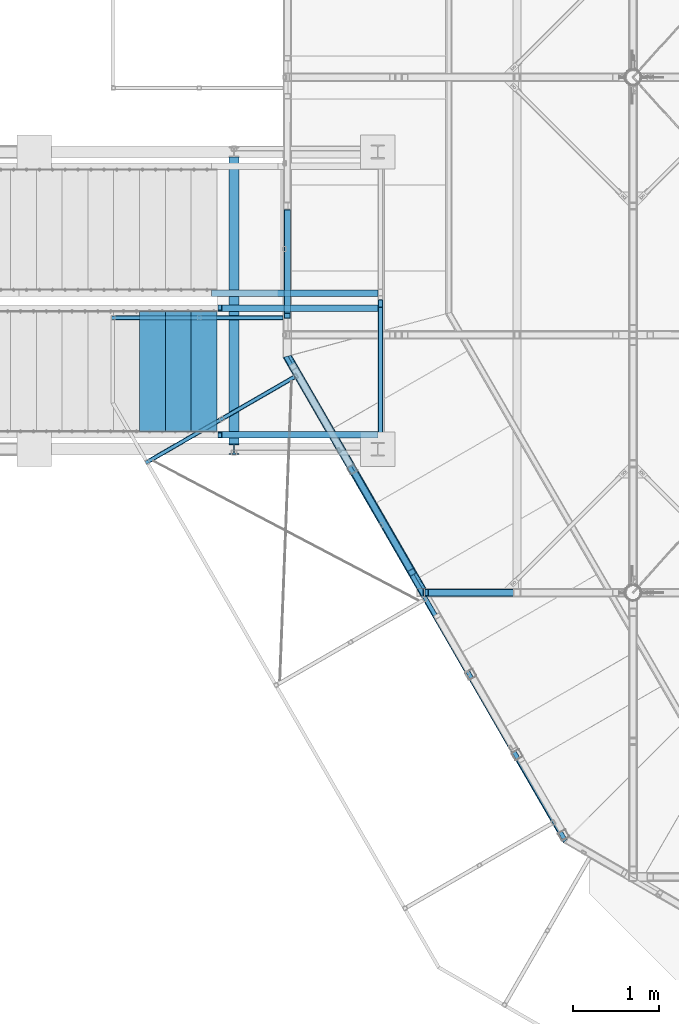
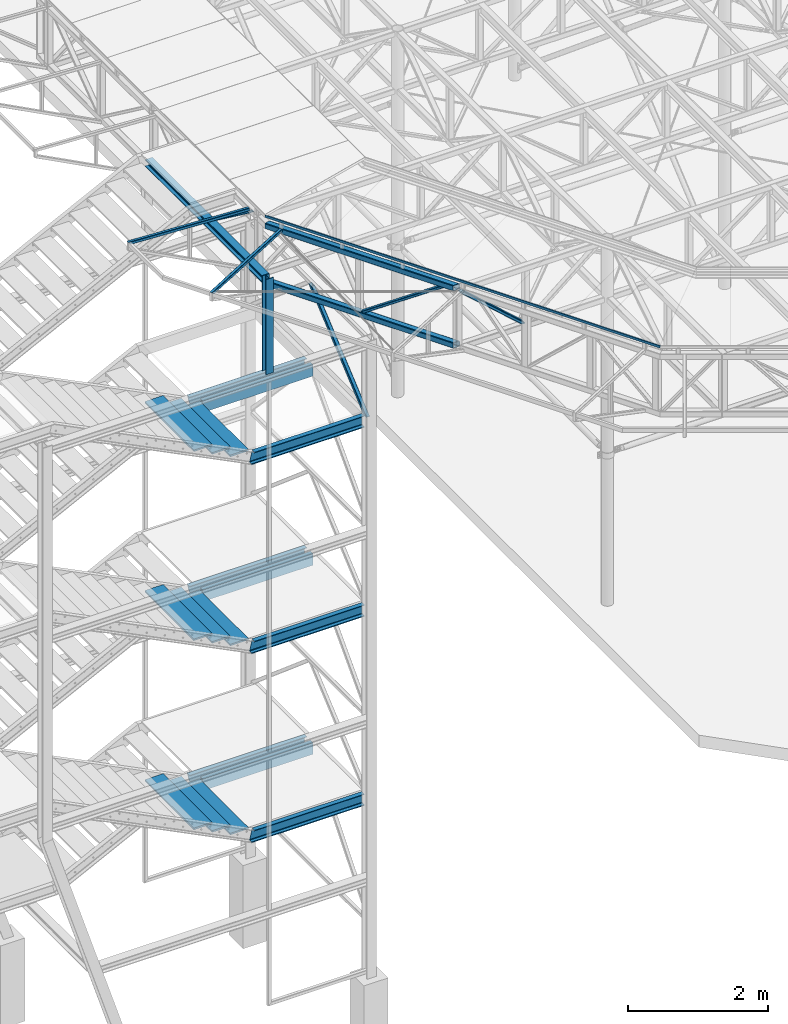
# One storey, part 38 of 132: 29 discrete accessories, 26 elements without a shape of their own.
"""IFC2X3 building model written with IfcOpenShell, lengths in millimetres."""

from ifc_helpers import new_model, si_unit, frame, origin_with_axes, origin_2d_with_axis, place, context, subcontext, project, spatial, polyline, rounded_rectangle, hollow_rectangle, i_section, l_section, u_section, outline, extrude, boolean, clip, halfspace, material, type_object, element, aggregate, save


model = new_model("IFC2X3")

# Units and contexts
model_context = context("Model", 3, precision=1e-05, world=origin_with_axes())
body_context = subcontext(model_context, "Body", "Model", "MODEL_VIEW")
ifc_project = project(units=[si_unit("LENGTHUNIT", "METRE", prefix="MILLI"), si_unit("AREAUNIT", "SQUARE_METRE"), si_unit("VOLUMEUNIT", "CUBIC_METRE"), si_unit("MASSUNIT", "GRAM", prefix="KILO"), si_unit("TIMEUNIT", "SECOND"), si_unit("PLANEANGLEUNIT", "RADIAN"), si_unit("SOLIDANGLEUNIT", "STERADIAN"), si_unit("THERMODYNAMICTEMPERATUREUNIT", "DEGREE_CELSIUS"), si_unit("LUMINOUSINTENSITYUNIT", "LUMEN")], contexts=[model_context])

# Site, building, storey
site_placement = place(None, origin_with_axes())
site = spatial("IfcSite", under=ifc_project, at=site_placement, Name="Budowa", CompositionType="ELEMENT")
building_placement = place(site_placement, origin_with_axes())
building = spatial("IfcBuilding", under=site, at=building_placement, Name="Undefined", CompositionType="ELEMENT")
storey_placement = place(building_placement, origin_with_axes())
storey = spatial("IfcBuildingStorey", under=building, at=storey_placement, Name="Undefined", CompositionType="ELEMENT", Elevation=0.0)

# Assembly, discrete accessories
assembly_1_placement = place(storey_placement, origin_with_axes())
assembly_1 = element("IfcElementAssembly", 1, at=assembly_1_placement, inside=storey, Name="Steel Assembly", AssemblyPlace="NOTDEFINED", PredefinedType="RIGID_FRAME")
ifc_material_1 = material(Name="STEEL/S235")
discrete_accessory_type_1 = type_object("IfcDiscreteAccessoryType", Name="BEAM")
discrete_accessory_1_placement = place(assembly_1_placement, frame((-620.000000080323, 7670.00000004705, 13740.0), z_axis=(0.0, 0.0, 1.0), x_axis=(0.0, 1.0, 0.0)))
discrete_accessory_1 = element("IfcDiscreteAccessory", 2, at=discrete_accessory_1_placement, type_object=discrete_accessory_type_1, material=ifc_material_1, Name="BEAM", ObjectType="HEB120", context=body_context, shape_type="Clipping", body=[
    clip(clip(extrude(i_section(OverallWidth=120.0, OverallDepth=120.0, WebThickness=6.5, FlangeThickness=11.0, FilletRadius=12.0, at=origin_2d_with_axis()), frame((3400.0, 0.0, 0.0), z_axis=(-1.0, 0.0, 0.0), x_axis=(0.0, -1.0, 0.0)), (0.0, 0.0, 1.0), 3340.0), halfspace(frame((3400.0, 0.0, 1000.0), z_axis=(-1.0, 0.0, 0.0), x_axis=(0.0, -1.0, 0.0)), True)), halfspace(frame((59.9999999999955, 0.0, 1000.0), z_axis=(1.0, 0.0, 0.0), x_axis=(0.0, 1.0, 0.0)), True)),
])
discrete_accessory_2_placement = place(assembly_1_placement, frame((-620.00000008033, 7670.00000004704, 12140.0), z_axis=(0.0, 0.0, 1.0), x_axis=(0.0, -1.0, 0.0)))
discrete_accessory_2 = element("IfcDiscreteAccessory", 3, at=discrete_accessory_2_placement, type_object=discrete_accessory_type_1, material=ifc_material_1, Name="BEAM", ObjectType="HEB120", context=body_context, shape_type="SweptSolid", body=[
    extrude(i_section(OverallWidth=120.0, OverallDepth=120.0, WebThickness=6.5, FlangeThickness=11.0, FilletRadius=12.0, at=origin_2d_with_axis()), frame((0.0, 0.0, 1660.0), z_axis=(0.0, 0.0, -1.0), x_axis=(0.0, 1.0, 0.0)), (0.0, 0.0, 1.0), 1660.0),
])
aggregate(assembly_1, [discrete_accessory_1, discrete_accessory_2])

# Assembly, discrete accessory
assembly_2_placement = place(storey_placement, origin_with_axes())
assembly_2 = element("IfcElementAssembly", 4, at=assembly_2_placement, inside=storey, Name="Steel Assembly", AssemblyPlace="NOTDEFINED", PredefinedType="RIGID_FRAME")
discrete_accessory_3_placement = place(assembly_2_placement, frame((-24.0681077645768, 8752.71791567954, 14004.0), z_axis=(0.86602354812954, 0.500003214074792, 0.0), x_axis=(0.500003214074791, -0.866023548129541, 0.0)))
discrete_accessory_3 = element("IfcDiscreteAccessory", 5, at=discrete_accessory_3_placement, type_object=discrete_accessory_type_1, material=ifc_material_1, Name="BEAM", ObjectType="L60*40*6", context=body_context, shape_type="Clipping", body=[
    clip(clip(extrude(l_section(Depth=60.0, Width=40.0, Thickness=6.0, FilletRadius=6.0, EdgeRadius=3.0, at=origin_2d_with_axis()), frame((6569.05914433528, -1.81898940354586e-12, 0.0), z_axis=(-1.0, 0.0, 0.0), x_axis=(0.0, -1.0, 0.0)), (0.0, 0.0, 1.0), 6613.4), halfspace(frame((6524.61678802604, -1.81898940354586e-12, -30.000000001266), z_axis=(0.965921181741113, 0.0, 0.2588363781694), x_axis=(0.0, -1.0, 0.0)), False)), halfspace(frame((16.1753331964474, -1.81898940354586e-12, 30.0000000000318), z_axis=(-0.965921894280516, 0.0, 0.258833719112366), x_axis=(0.0, -1.0, 0.0)), False)),
])
aggregate(assembly_2, [discrete_accessory_3])

assembly_3_placement = place(storey_placement, origin_with_axes())
assembly_3 = element("IfcElementAssembly", 6, at=assembly_3_placement, inside=storey, Name="Steel Assembly", AssemblyPlace="NOTDEFINED", PredefinedType="RIGID_FRAME")
discrete_accessory_4_placement = place(assembly_3_placement, frame((-51.148440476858, 9200.00000004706, 13855.0311915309), z_axis=(0.0, 1.0, 0.0), x_axis=(-0.998752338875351, 0.0, 0.0499376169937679)))
discrete_accessory_4 = element("IfcDiscreteAccessory", 7, at=discrete_accessory_4_placement, type_object=discrete_accessory_type_1, material=ifc_material_1, Name="BEAM", ObjectType="SHS50*4", context=body_context, shape_type="Clipping", body=[
    clip(clip(extrude(hollow_rectangle(XDim=50.0, YDim=50.0, WallThickness=4.0, InnerFilletRadius=4.0, OuterFilletRadius=8.0, at=origin_2d_with_axis()), frame((2004.12425861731, -3.63797880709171e-12, 0.0), z_axis=(-1.0, 0.0, 0.0), x_axis=(0.0, -1.0, 0.0)), (0.0, 0.0, 1.0), 2033.18), halfspace(frame((2002.59894631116, 25.0000000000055, -2.91038304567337e-11), z_axis=(-0.689225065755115, 0.724547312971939, 0.0), x_axis=(0.0, 0.0, 1.0)), True)), halfspace(frame((-1.21290213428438e-08, 25.0000000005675, 73.1665326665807), z_axis=(-0.998752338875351, 0.0499376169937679, 0.0), x_axis=(-0.0499376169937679, -0.998752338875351, 0.0)), False)),
])
aggregate(assembly_3, [discrete_accessory_4])

assembly_4_placement = place(storey_placement, origin_with_axes())
assembly_4 = element("IfcElementAssembly", 8, at=assembly_4_placement, inside=storey, Name="Steel Assembly", AssemblyPlace="NOTDEFINED", PredefinedType="RIGID_FRAME")
discrete_accessory_5_placement = place(assembly_4_placement, frame((80.9365455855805, 8508.74561168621, 13855.0311915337), z_axis=(0.499969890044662, -0.866042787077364, 0.0), x_axis=(-0.864962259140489, -0.499346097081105, 0.0499376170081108)))
discrete_accessory_5 = element("IfcDiscreteAccessory", 9, at=discrete_accessory_5_placement, type_object=discrete_accessory_type_1, material=ifc_material_1, Name="BEAM", ObjectType="SHS50*4", context=body_context, shape_type="Clipping", body=[
    clip(clip(extrude(hollow_rectangle(XDim=50.0, YDim=50.0, WallThickness=4.0, InnerFilletRadius=4.0, OuterFilletRadius=8.0, at=origin_2d_with_axis()), frame((2047.80222226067, -1.81898940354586e-12, -1.00153404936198e-12), z_axis=(-1.0, 0.0, 0.0), x_axis=(0.0, -1.0, 0.0)), (0.0, 0.0, 1.0), 2120.54), halfspace(frame((2002.5989463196, -25.0000000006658, -7.85761585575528e-07), z_axis=(-0.689225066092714, -0.724547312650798, 2.88487317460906e-10), x_axis=(0.0, 0.0, -1.0)), True)), halfspace(frame((-1.23691279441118e-08, -25.0000000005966, 73.1665326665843), z_axis=(-0.998752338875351, -0.0499376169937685, 0.0), x_axis=(0.0, 0.0, -1.0)), False)),
])
aggregate(assembly_4, [discrete_accessory_5])

assembly_5_placement = place(storey_placement, origin_with_axes())
assembly_5 = element("IfcElementAssembly", 10, at=assembly_5_placement, inside=storey, Name="Steel Assembly", AssemblyPlace="NOTDEFINED", PredefinedType="RIGID_FRAME")
discrete_accessory_6_placement = place(assembly_5_placement, frame((0.0999999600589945, 10500.000000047, 12830.0000000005), z_axis=(-1.0, 0.0, 0.0), x_axis=(0.0, -0.802498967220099, 0.596653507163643)))
solid_1 = boolean("DIFFERENCE", boolean("DIFFERENCE", extrude(hollow_rectangle(XDim=90.0, YDim=90.0, WallThickness=4.0, InnerFilletRadius=4.0, OuterFilletRadius=8.0, at=origin_2d_with_axis()), frame((566.820831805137, 762.3740188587, -2.91038304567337e-11), z_axis=(-0.596653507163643, -0.802498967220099, 0.0), x_axis=(0.0, 0.0, 1.0)), (0.0, 0.0, 1.0), 900.0), halfspace(frame((-235.678135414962, 1359.02752602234, -2.91038304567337e-11), z_axis=(-0.596653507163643, -0.802498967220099, 0.0), x_axis=(0.0, 0.0, 1.0)), True)), halfspace(frame((-772.666291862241, 636.778455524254, -2.91038304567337e-11), z_axis=(0.596653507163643, 0.802498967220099, 0.0), x_axis=(0.0, 0.0, -1.0)), True))
discrete_accessory_6 = element("IfcDiscreteAccessory", 11, at=discrete_accessory_6_placement, type_object=discrete_accessory_type_1, material=ifc_material_1, Name="BEAM", ObjectType="RHS80*40*4", context=body_context, shape_type="CSG", body=[
    boolean("DIFFERENCE", boolean("DIFFERENCE", boolean("DIFFERENCE", extrude(hollow_rectangle(XDim=40.0, YDim=80.0, WallThickness=4.0, InnerFilletRadius=4.0, OuterFilletRadius=8.0, at=origin_2d_with_axis()), frame((1637.41704532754, 0.0, 0.0), z_axis=(-1.0, 0.0, 0.0), x_axis=(0.0, -1.0, 0.0)), (0.0, 0.0, 1.0), 1598.82), solid_1), halfspace(frame((1646.18194282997, -40.1249483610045, 1000.0), z_axis=(-0.596653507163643, -0.802498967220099, 0.0), x_axis=(0.802498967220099, -0.596653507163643, 0.0)), True)), halfspace(frame((29.8326753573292, 40.1249483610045, 1000.0), z_axis=(0.596653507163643, 0.802498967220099, 0.0), x_axis=(-0.802498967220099, 0.596653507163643, 0.0)), True)),
])
aggregate(assembly_5, [discrete_accessory_6])

# Assembly, discrete accessories
assembly_6_placement = place(storey_placement, origin_with_axes())
assembly_6 = element("IfcElementAssembly", 12, at=assembly_6_placement, inside=storey, Name="Steel Assembly", AssemblyPlace="NOTDEFINED", PredefinedType="RIGID_FRAME")
discrete_accessory_7_placement = place(assembly_6_placement, frame((760.301212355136, 7434.23487827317, 12830.0000000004), z_axis=(-0.866025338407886, -0.500000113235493, 0.0), x_axis=(0.412062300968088, -0.713712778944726, 0.566408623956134)))
solid_2 = boolean("DIFFERENCE", boolean("DIFFERENCE", extrude(hollow_rectangle(XDim=90.0, YDim=90.0, WallThickness=4.0, InnerFilletRadius=4.0, OuterFilletRadius=8.0, at=origin_2d_with_axis()), frame((538.088190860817, 782.918321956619, -1.00875396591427e-07), z_axis=(-0.566408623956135, -0.824124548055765, 1.04791647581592e-10), x_axis=(0.0, 0.0, 1.0)), (0.0, 0.0, 1.0), 900.0), halfspace(frame((-286.036357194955, 1349.32694591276, 5.13755367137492e-08), z_axis=(-0.566408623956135, -0.824124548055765, 1.04791647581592e-10), x_axis=(0.0, 0.0, 1.0)), True)), halfspace(frame((-795.804118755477, 607.614852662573, 1.45690137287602e-07), z_axis=(0.566408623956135, 0.824124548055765, -1.04794017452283e-10), x_axis=(0.0, 0.0, -1.0)), True))
discrete_accessory_7 = element("IfcDiscreteAccessory", 13, at=discrete_accessory_7_placement, type_object=discrete_accessory_type_1, material=ifc_material_1, Name="BEAM", ObjectType="RHS80*40*4", context=body_context, shape_type="CSG", body=[
    boolean("DIFFERENCE", boolean("DIFFERENCE", boolean("DIFFERENCE", extrude(hollow_rectangle(XDim=40.0, YDim=80.0, WallThickness=4.0, InnerFilletRadius=4.0, OuterFilletRadius=8.0, at=origin_2d_with_axis()), frame((1787.39149860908, -1.98440319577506e-13, -3.60765181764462e-12), z_axis=(-1.0, 0.0, 0.0), x_axis=(0.0, -1.0, 0.0)), (0.0, 0.0, 1.0), 1809.27), solid_2), halfspace(frame((1737.18941065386, -41.2062274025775, 1000.00000000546), z_axis=(-0.566408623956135, -0.824124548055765, 1.04791647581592e-10), x_axis=(0.824124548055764, -0.566408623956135, -1.52471329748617e-10)), True)), halfspace(frame((28.3204313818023, 41.2062274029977, 999.999999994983), z_axis=(0.566408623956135, 0.824124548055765, -1.04794017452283e-10), x_axis=(-0.824124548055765, 0.566408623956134, 1.52474967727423e-10)), True)),
])
discrete_accessory_8_placement = place(assembly_6_placement, frame((1545.40126904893, 6074.40181030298, 12830.0), z_axis=(-0.866025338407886, -0.500000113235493, 0.0), x_axis=(-0.500000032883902, 0.866025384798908, 0.0)))
discrete_accessory_8 = element("IfcDiscreteAccessory", 14, at=discrete_accessory_8_placement, type_object=discrete_accessory_type_1, material=ifc_material_1, Name="BEAM", ObjectType="SHS100*8", context=body_context, shape_type="Clipping", body=[
    clip(clip(extrude(hollow_rectangle(XDim=100.0, YDim=100.0, WallThickness=8.0, InnerFilletRadius=8.0, OuterFilletRadius=16.0, at=origin_2d_with_axis()), frame((3156.92730982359, 0.0, 0.0), z_axis=(-1.0, 0.0, 0.0), x_axis=(0.0, -1.0, 0.0)), (0.0, 0.0, 1.0), 3251.23), halfspace(frame((3077.40508994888, 0.0, -50.0000000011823), z_axis=(0.965925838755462, 0.0, -0.2588189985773), x_axis=(0.0, -1.0, 0.0)), False)), halfspace(frame((0.518048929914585, -50.0, 49.7009042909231), z_axis=(0.866025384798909, 0.0, -0.5000000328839), x_axis=(0.0, 1.0, 0.0)), True)),
])
discrete_accessory_9_placement = place(assembly_6_placement, frame((1545.40126904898, 6074.40181030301, 13830.0), z_axis=(-0.866025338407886, -0.500000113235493, 0.0), x_axis=(-0.500000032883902, 0.866025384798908, 0.0)))
discrete_accessory_9 = element("IfcDiscreteAccessory", 15, at=discrete_accessory_9_placement, type_object=discrete_accessory_type_1, material=ifc_material_1, Name="BEAM", ObjectType="SHS100*8", context=body_context, shape_type="Clipping", body=[
    clip(clip(extrude(hollow_rectangle(XDim=100.0, YDim=100.0, WallThickness=8.0, InnerFilletRadius=8.0, OuterFilletRadius=16.0, at=origin_2d_with_axis()), frame((3156.92730982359, 0.0, 0.0), z_axis=(-1.0, 0.0, 0.0), x_axis=(0.0, -1.0, 0.0)), (0.0, 0.0, 1.0), 3251.23), halfspace(frame((3077.40508994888, 0.0, -50.0000000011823), z_axis=(0.965925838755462, 0.0, -0.2588189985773), x_axis=(0.0, -1.0, 0.0)), False)), halfspace(frame((0.518048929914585, -50.0, 49.7009042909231), z_axis=(0.866025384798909, 0.0, -0.5000000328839), x_axis=(0.0, 1.0, 0.0)), True)),
])
aggregate(assembly_6, [discrete_accessory_7, discrete_accessory_8, discrete_accessory_9])

# Assembly, discrete accessory
assembly_7_placement = place(storey_placement, origin_with_axes())
assembly_7 = element("IfcElementAssembly", 16, at=assembly_7_placement, inside=storey, Name="Steel Assembly", AssemblyPlace="NOTDEFINED", PredefinedType="RIGID_FRAME")
discrete_accessory_10_placement = place(assembly_7_placement, frame((1552.09999979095, 6000.00000004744, 13830.0000000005), z_axis=(0.0, -1.0, 0.0), x_axis=(0.747115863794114, 0.0, -0.664693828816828)))
solid_3 = boolean("DIFFERENCE", boolean("DIFFERENCE", extrude(hollow_rectangle(XDim=100.0, YDim=100.0, WallThickness=8.0, InnerFilletRadius=8.0, OuterFilletRadius=16.0, at=origin_2d_with_axis()), frame((631.459137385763, -709.760070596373, 3.71073838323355e-10), z_axis=(-0.664693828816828, 0.747115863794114, 0.0), x_axis=(0.0, 0.0, 1.0)), (0.0, 0.0, 1.0), 900.0), halfspace(frame((1378.57500117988, -45.0662417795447, 3.71073838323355e-10), z_axis=(-0.664693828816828, 0.747115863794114, 0.0), x_axis=(-0.747115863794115, -0.664693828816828, 0.0)), True)), halfspace(frame((780.350555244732, 627.338035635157, 3.71073838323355e-10), z_axis=(0.664693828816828, -0.747115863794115, 0.0), x_axis=(-0.747115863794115, -0.664693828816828, 0.0)), True))
solid_4 = boolean("DIFFERENCE", boolean("DIFFERENCE", extrude(rounded_rectangle(XDim=90.0, YDim=90.0, RoundingRadius=12.0, at=origin_2d_with_axis()), frame((1471.21736829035, 37.3557929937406, 3.71073838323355e-10), z_axis=(-0.664693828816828, 0.747115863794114, 0.0), x_axis=(0.0, 0.0, 1.0)), (0.0, 0.0, 1.0), 900.0), halfspace(frame((2218.33323208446, 702.049621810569, 3.71073838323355e-10), z_axis=(-0.664693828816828, 0.747115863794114, 0.0), x_axis=(-0.747115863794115, -0.664693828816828, 0.0)), True)), halfspace(frame((1620.10878614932, 1374.45389922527, 3.71073838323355e-10), z_axis=(0.664693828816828, -0.747115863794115, 0.0), x_axis=(-0.747115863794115, -0.664693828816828, 0.0)), True))
discrete_accessory_10 = element("IfcDiscreteAccessory", 17, at=discrete_accessory_10_placement, type_object=discrete_accessory_type_1, material=ifc_material_1, Name="BEAM", ObjectType="RHS90*50*5", context=body_context, shape_type="CSG", body=[
    boolean("DIFFERENCE", boolean("DIFFERENCE", boolean("DIFFERENCE", boolean("DIFFERENCE", extrude(hollow_rectangle(XDim=50.0, YDim=90.0, WallThickness=5.0, InnerFilletRadius=7.5, OuterFilletRadius=12.5, at=origin_2d_with_axis()), frame((1442.35927093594, 0.0, 0.0), z_axis=(-1.0, 0.0, 0.0), x_axis=(0.0, -1.0, 0.0)), (0.0, 0.0, 1.0), 1380.27), solid_3), solid_4), halfspace(frame((1471.21736851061, 37.3557931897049, 1000.0), z_axis=(-0.664693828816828, 0.747115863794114, 0.0), x_axis=(-0.747115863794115, -0.664693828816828, 0.0)), True)), halfspace(frame((33.2346914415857, -37.3557931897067, 1000.0), z_axis=(0.664693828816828, -0.747115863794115, 0.0), x_axis=(0.747115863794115, 0.664693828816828, 0.0)), True)),
])
aggregate(assembly_7, [discrete_accessory_10])

assembly_8_placement = place(storey_placement, origin_with_axes())
assembly_8 = element("IfcElementAssembly", 18, at=assembly_8_placement, inside=storey, Name="Steel Assembly", AssemblyPlace="NOTDEFINED", PredefinedType="RIGID_FRAME")
discrete_accessory_type_2 = type_object("IfcDiscreteAccessoryType", Name="BELKA")
discrete_accessory_11_placement = place(assembly_8_placement, frame((-760.000000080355, 7837.50000004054, 10600.0), z_axis=(0.0, 0.0, 1.0), x_axis=(1.0, 0.0, 0.0)))
discrete_accessory_11 = element("IfcDiscreteAccessory", 19, at=discrete_accessory_11_placement, type_object=discrete_accessory_type_2, material=ifc_material_1, Name="BELKA", ObjectType="UPN200", context=body_context, shape_type="Clipping", body=[
    clip(extrude(u_section(Depth=200.0, FlangeWidth=75.0, WebThickness=8.5, FlangeThickness=11.5, FilletRadius=11.5, EdgeRadius=6.0, at=origin_2d_with_axis()), frame((1814.99999999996, 0.0, 0.0), z_axis=(-1.0, 0.0, 0.0), x_axis=(0.0, -1.0, 0.0)), (0.0, 0.0, 1.0), 1862.45), halfspace(frame((3.68811288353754e-06, -3.63797880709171e-12, 100.0), z_axis=(0.97324898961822, 0.0, -0.229752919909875), x_axis=(0.0, 1.0, 0.0)), True)),
])
aggregate(assembly_8, [discrete_accessory_11])

assembly_9_placement = place(storey_placement, origin_with_axes())
assembly_9 = element("IfcElementAssembly", 20, at=assembly_9_placement, inside=storey, Name="Steel Assembly", AssemblyPlace="NOTDEFINED", PredefinedType="RIGID_FRAME")
discrete_accessory_12_placement = place(assembly_9_placement, frame((1054.99999991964, 9312.50000004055, 10600.0000000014), z_axis=(0.0, 0.0, 1.0), x_axis=(-1.0, 0.0, 0.0)))
discrete_accessory_12 = element("IfcDiscreteAccessory", 21, at=discrete_accessory_12_placement, type_object=discrete_accessory_type_2, material=ifc_material_1, Name="BELKA", ObjectType="UPN200", context=body_context, shape_type="Clipping", body=[
    clip(extrude(u_section(Depth=200.0, FlangeWidth=75.0, WebThickness=8.5, FlangeThickness=11.5, FilletRadius=11.5, EdgeRadius=6.0, at=origin_2d_with_axis()), frame((1862.44966333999, 0.0, 0.0), z_axis=(-1.0, 0.0, 0.0), x_axis=(0.0, -1.0, 0.0)), (0.0, 0.0, 1.0), 1862.45), halfspace(frame((1815.0000000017, 3.8198777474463e-11, 99.999999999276), z_axis=(-0.97324898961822, 0.0, -0.229752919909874), x_axis=(0.0, -1.0, 0.0)), True)),
])
aggregate(assembly_9, [discrete_accessory_12])

assembly_10_placement = place(storey_placement, origin_with_axes())
assembly_10 = element("IfcElementAssembly", 22, at=assembly_10_placement, inside=storey, Name="Steel Assembly", AssemblyPlace="NOTDEFINED", PredefinedType="RIGID_FRAME")
discrete_accessory_13_placement = place(assembly_10_placement, frame((-880.000000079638, 9487.50000004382, 10599.9999999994), z_axis=(0.0, 0.0, 1.0), x_axis=(1.0, 0.0, 0.0)))
discrete_accessory_13 = element("IfcDiscreteAccessory", 23, at=discrete_accessory_13_placement, type_object=discrete_accessory_type_2, material=ifc_material_1, Name="BELKA", ObjectType="UPN200", context=body_context, shape_type="Clipping", body=[
    clip(extrude(u_section(Depth=200.0, FlangeWidth=75.0, WebThickness=8.5, FlangeThickness=11.5, FilletRadius=11.5, EdgeRadius=6.0, at=origin_2d_with_axis()), frame((1934.99999999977, 0.0, 0.0), z_axis=(-1.0, 0.0, 0.0), x_axis=(0.0, -1.0, 0.0)), (0.0, 0.0, 1.0), 1935.24), halfspace(frame((3.68624523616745e-06, -37.5000000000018, 99.9999999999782), z_axis=(-0.97324898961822, 0.0, -0.229752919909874), x_axis=(0.0, -1.0, 0.0)), False)),
])
aggregate(assembly_10, [discrete_accessory_13])

assembly_11_placement = place(storey_placement, origin_with_axes())
assembly_11 = element("IfcElementAssembly", 24, at=assembly_11_placement, inside=storey, Name="Steel Assembly", AssemblyPlace="NOTDEFINED", PredefinedType="RIGID_FRAME")
discrete_accessory_14_placement = place(assembly_11_placement, frame((-760.000000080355, 7837.50000004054, 7300.00000000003), z_axis=(0.0, 0.0, 1.0), x_axis=(1.0, 0.0, 0.0)))
discrete_accessory_14 = element("IfcDiscreteAccessory", 25, at=discrete_accessory_14_placement, type_object=discrete_accessory_type_2, material=ifc_material_1, Name="BELKA", ObjectType="UPN200", context=body_context, shape_type="Clipping", body=[
    clip(extrude(u_section(Depth=200.0, FlangeWidth=75.0, WebThickness=8.5, FlangeThickness=11.5, FilletRadius=11.5, EdgeRadius=6.0, at=origin_2d_with_axis()), frame((1814.99999999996, 0.0, 0.0), z_axis=(-1.0, 0.0, 0.0), x_axis=(0.0, -1.0, 0.0)), (0.0, 0.0, 1.0), 1862.45), halfspace(frame((3.68811288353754e-06, -3.63797880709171e-12, 100.0), z_axis=(0.97324898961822, 0.0, -0.229752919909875), x_axis=(0.0, 1.0, 0.0)), True)),
])
aggregate(assembly_11, [discrete_accessory_14])

assembly_12_placement = place(storey_placement, origin_with_axes())
assembly_12 = element("IfcElementAssembly", 26, at=assembly_12_placement, inside=storey, Name="Steel Assembly", AssemblyPlace="NOTDEFINED", PredefinedType="RIGID_FRAME")
discrete_accessory_15_placement = place(assembly_12_placement, frame((1054.99999991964, 9312.50000004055, 7300.00000000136), z_axis=(0.0, 0.0, 1.0), x_axis=(-1.0, 0.0, 0.0)))
discrete_accessory_15 = element("IfcDiscreteAccessory", 27, at=discrete_accessory_15_placement, type_object=discrete_accessory_type_2, material=ifc_material_1, Name="BELKA", ObjectType="UPN200", context=body_context, shape_type="Clipping", body=[
    clip(extrude(u_section(Depth=200.0, FlangeWidth=75.0, WebThickness=8.5, FlangeThickness=11.5, FilletRadius=11.5, EdgeRadius=6.0, at=origin_2d_with_axis()), frame((1862.44966333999, 0.0, 0.0), z_axis=(-1.0, 0.0, 0.0), x_axis=(0.0, -1.0, 0.0)), (0.0, 0.0, 1.0), 1862.45), halfspace(frame((1815.0000000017, 3.8198777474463e-11, 99.999999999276), z_axis=(-0.97324898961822, 0.0, -0.229752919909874), x_axis=(0.0, -1.0, 0.0)), True)),
])
aggregate(assembly_12, [discrete_accessory_15])

assembly_13_placement = place(storey_placement, origin_with_axes())
assembly_13 = element("IfcElementAssembly", 28, at=assembly_13_placement, inside=storey, Name="Steel Assembly", AssemblyPlace="NOTDEFINED", PredefinedType="RIGID_FRAME")
discrete_accessory_16_placement = place(assembly_13_placement, frame((-880.000000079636, 9487.50000004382, 7299.99999999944), z_axis=(0.0, 0.0, 1.0), x_axis=(1.0, 0.0, 0.0)))
discrete_accessory_16 = element("IfcDiscreteAccessory", 29, at=discrete_accessory_16_placement, type_object=discrete_accessory_type_2, material=ifc_material_1, Name="BELKA", ObjectType="UPN200", context=body_context, shape_type="Clipping", body=[
    clip(extrude(u_section(Depth=200.0, FlangeWidth=75.0, WebThickness=8.5, FlangeThickness=11.5, FilletRadius=11.5, EdgeRadius=6.0, at=origin_2d_with_axis()), frame((1934.99999999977, 0.0, 0.0), z_axis=(-1.0, 0.0, 0.0), x_axis=(0.0, -1.0, 0.0)), (0.0, 0.0, 1.0), 1935.24), halfspace(frame((3.68624523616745e-06, -37.5000000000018, 99.9999999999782), z_axis=(-0.97324898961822, 0.0, -0.229752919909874), x_axis=(0.0, -1.0, 0.0)), False)),
])
aggregate(assembly_13, [discrete_accessory_16])

assembly_14_placement = place(storey_placement, origin_with_axes())
assembly_14 = element("IfcElementAssembly", 30, at=assembly_14_placement, inside=storey, Name="Steel Assembly", AssemblyPlace="NOTDEFINED", PredefinedType="RIGID_FRAME")
discrete_accessory_17_placement = place(assembly_14_placement, frame((-760.000000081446, 7837.50000004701, 3999.9999999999), z_axis=(0.0, 0.0, 1.0), x_axis=(1.0, 0.0, 0.0)))
discrete_accessory_17 = element("IfcDiscreteAccessory", 31, at=discrete_accessory_17_placement, type_object=discrete_accessory_type_2, material=ifc_material_1, Name="BELKA", ObjectType="UPN200", context=body_context, shape_type="Clipping", body=[
    clip(extrude(u_section(Depth=200.0, FlangeWidth=75.0, WebThickness=8.5, FlangeThickness=11.5, FilletRadius=11.5, EdgeRadius=6.0, at=origin_2d_with_axis()), frame((1814.99999999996, 0.0, 0.0), z_axis=(-1.0, 0.0, 0.0), x_axis=(0.0, -1.0, 0.0)), (0.0, 0.0, 1.0), 1862.45), halfspace(frame((3.68811288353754e-06, -3.63797880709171e-12, 100.0), z_axis=(0.97324898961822, 0.0, -0.229752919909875), x_axis=(0.0, 1.0, 0.0)), True)),
])
aggregate(assembly_14, [discrete_accessory_17])

assembly_15_placement = place(storey_placement, origin_with_axes())
assembly_15 = element("IfcElementAssembly", 32, at=assembly_15_placement, inside=storey, Name="Steel Assembly", AssemblyPlace="NOTDEFINED", PredefinedType="RIGID_FRAME")
discrete_accessory_18_placement = place(assembly_15_placement, frame((1054.99999991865, 9312.50000004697, 3999.99999999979), z_axis=(0.0, 0.0, 1.0), x_axis=(-1.0, 0.0, 0.0)))
discrete_accessory_18 = element("IfcDiscreteAccessory", 33, at=discrete_accessory_18_placement, type_object=discrete_accessory_type_2, material=ifc_material_1, Name="BELKA", ObjectType="UPN200", context=body_context, shape_type="Clipping", body=[
    clip(extrude(u_section(Depth=200.0, FlangeWidth=75.0, WebThickness=8.5, FlangeThickness=11.5, FilletRadius=11.5, EdgeRadius=6.0, at=origin_2d_with_axis()), frame((1862.44966333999, 0.0, 0.0), z_axis=(-1.0, 0.0, 0.0), x_axis=(0.0, -1.0, 0.0)), (0.0, 0.0, 1.0), 1862.45), halfspace(frame((1815.0000000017, 3.8198777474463e-11, 99.999999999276), z_axis=(-0.97324898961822, 0.0, -0.229752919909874), x_axis=(0.0, -1.0, 0.0)), True)),
])
aggregate(assembly_15, [discrete_accessory_18])

assembly_16_placement = place(storey_placement, origin_with_axes())
assembly_16 = element("IfcElementAssembly", 34, at=assembly_16_placement, inside=storey, Name="Steel Assembly", AssemblyPlace="NOTDEFINED", PredefinedType="RIGID_FRAME")
discrete_accessory_19_placement = place(assembly_16_placement, frame((-880.000000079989, 9487.50000004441, 4000.00000000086), z_axis=(0.0, 0.0, 1.0), x_axis=(1.0, 0.0, 0.0)))
discrete_accessory_19 = element("IfcDiscreteAccessory", 35, at=discrete_accessory_19_placement, type_object=discrete_accessory_type_2, material=ifc_material_1, Name="BELKA", ObjectType="UPN200", context=body_context, shape_type="Clipping", body=[
    clip(extrude(u_section(Depth=200.0, FlangeWidth=75.0, WebThickness=8.5, FlangeThickness=11.5, FilletRadius=11.5, EdgeRadius=6.0, at=origin_2d_with_axis()), frame((1934.99999999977, 0.0, 0.0), z_axis=(-1.0, 0.0, 0.0), x_axis=(0.0, -1.0, 0.0)), (0.0, 0.0, 1.0), 1935.24), halfspace(frame((3.68624523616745e-06, -37.5000000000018, 99.9999999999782), z_axis=(-0.97324898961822, 0.0, -0.229752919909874), x_axis=(0.0, -1.0, 0.0)), False)),
])
aggregate(assembly_16, [discrete_accessory_19])

assembly_17_placement = place(storey_placement, origin_with_axes())
assembly_17 = element("IfcElementAssembly", 36, at=assembly_17_placement, inside=storey, Name="Steel Assembly", AssemblyPlace="NOTDEFINED", PredefinedType="RIGID_FRAME")
ifc_material_2 = material(Name="STEEL/S235JR")
discrete_accessory_type_3 = type_object("IfcDiscreteAccessoryType", Name="STOPNIE")
discrete_accessory_20_placement = place(assembly_17_placement, frame((-1570.00000007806, 9275.00000004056, 11015.0000000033), z_axis=(0.0, 0.0, -1.0), x_axis=(0.0, -1.0, 0.0)))
discrete_accessory_20 = element("IfcDiscreteAccessory", 37, at=discrete_accessory_20_placement, type_object=discrete_accessory_type_3, material=ifc_material_2, Name="STOPNIE", ObjectType="PL30*300", context=body_context, shape_type="SweptSolid", body=[
    extrude(outline(polyline([(1400.0, 150.0), (1400.0, -150.0), (0.0, -150.0), (0.0, 150.0), (1400.0, 150.0)])), frame((0.0, 0.0, -15.0), z_axis=(0.0, 0.0, 1.0), x_axis=(1.0, 0.0, 0.0)), (0.0, 0.0, 1.0), 30.0),
])
aggregate(assembly_17, [discrete_accessory_20])

assembly_18_placement = place(storey_placement, origin_with_axes())
assembly_18 = element("IfcElementAssembly", 38, at=assembly_18_placement, inside=storey, Name="Steel Assembly", AssemblyPlace="NOTDEFINED", PredefinedType="RIGID_FRAME")
discrete_accessory_21_placement = place(assembly_18_placement, frame((-1270.0000000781, 9275.00000004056, 10865.000000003), z_axis=(0.0, 0.0, -1.0), x_axis=(0.0, -1.0, 0.0)))
discrete_accessory_21 = element("IfcDiscreteAccessory", 39, at=discrete_accessory_21_placement, type_object=discrete_accessory_type_3, material=ifc_material_2, Name="STOPNIE", ObjectType="PL30*300", context=body_context, shape_type="SweptSolid", body=[
    extrude(outline(polyline([(1400.0, 150.0), (1400.0, -150.0), (0.0, -150.0), (0.0, 150.0), (1400.0, 150.0)])), frame((0.0, 0.0, -15.0), z_axis=(0.0, 0.0, 1.0), x_axis=(1.0, 0.0, 0.0)), (0.0, 0.0, 1.0), 30.0),
])
aggregate(assembly_18, [discrete_accessory_21])

assembly_19_placement = place(storey_placement, origin_with_axes())
assembly_19 = element("IfcElementAssembly", 40, at=assembly_19_placement, inside=storey, Name="Steel Assembly", AssemblyPlace="NOTDEFINED", PredefinedType="RIGID_FRAME")
discrete_accessory_22_placement = place(assembly_19_placement, frame((-970.000000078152, 9275.00000004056, 10715.0000000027), z_axis=(0.0, 0.0, -1.0), x_axis=(0.0, -1.0, 0.0)))
discrete_accessory_22 = element("IfcDiscreteAccessory", 41, at=discrete_accessory_22_placement, type_object=discrete_accessory_type_3, material=ifc_material_2, Name="STOPNIE", ObjectType="PL30*300", context=body_context, shape_type="SweptSolid", body=[
    extrude(outline(polyline([(1400.0, 150.0), (1400.0, -150.0), (0.0, -150.0), (0.0, 150.0), (1400.0, 150.0)])), frame((0.0, 0.0, -15.0), z_axis=(0.0, 0.0, 1.0), x_axis=(1.0, 0.0, 0.0)), (0.0, 0.0, 1.0), 30.0),
])
aggregate(assembly_19, [discrete_accessory_22])

assembly_20_placement = place(storey_placement, origin_with_axes())
assembly_20 = element("IfcElementAssembly", 42, at=assembly_20_placement, inside=storey, Name="Steel Assembly", AssemblyPlace="NOTDEFINED", PredefinedType="RIGID_FRAME")
discrete_accessory_23_placement = place(assembly_20_placement, frame((-1570.00000007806, 9275.00000004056, 7715.00000000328), z_axis=(0.0, 0.0, -1.0), x_axis=(0.0, -1.0, 0.0)))
discrete_accessory_23 = element("IfcDiscreteAccessory", 43, at=discrete_accessory_23_placement, type_object=discrete_accessory_type_3, material=ifc_material_2, Name="STOPNIE", ObjectType="PL30*300", context=body_context, shape_type="SweptSolid", body=[
    extrude(outline(polyline([(1400.0, 150.0), (1400.0, -150.0), (0.0, -150.0), (0.0, 150.0), (1400.0, 150.0)])), frame((0.0, 0.0, -15.0), z_axis=(0.0, 0.0, 1.0), x_axis=(1.0, 0.0, 0.0)), (0.0, 0.0, 1.0), 30.0),
])
aggregate(assembly_20, [discrete_accessory_23])

assembly_21_placement = place(storey_placement, origin_with_axes())
assembly_21 = element("IfcElementAssembly", 44, at=assembly_21_placement, inside=storey, Name="Steel Assembly", AssemblyPlace="NOTDEFINED", PredefinedType="RIGID_FRAME")
discrete_accessory_24_placement = place(assembly_21_placement, frame((-1270.0000000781, 9275.00000004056, 7565.000000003), z_axis=(0.0, 0.0, -1.0), x_axis=(0.0, -1.0, 0.0)))
discrete_accessory_24 = element("IfcDiscreteAccessory", 45, at=discrete_accessory_24_placement, type_object=discrete_accessory_type_3, material=ifc_material_2, Name="STOPNIE", ObjectType="PL30*300", context=body_context, shape_type="SweptSolid", body=[
    extrude(outline(polyline([(1400.0, 150.0), (1400.0, -150.0), (0.0, -150.0), (0.0, 150.0), (1400.0, 150.0)])), frame((0.0, 0.0, -15.0), z_axis=(0.0, 0.0, 1.0), x_axis=(1.0, 0.0, 0.0)), (0.0, 0.0, 1.0), 30.0),
])
aggregate(assembly_21, [discrete_accessory_24])

assembly_22_placement = place(storey_placement, origin_with_axes())
assembly_22 = element("IfcElementAssembly", 46, at=assembly_22_placement, inside=storey, Name="Steel Assembly", AssemblyPlace="NOTDEFINED", PredefinedType="RIGID_FRAME")
discrete_accessory_25_placement = place(assembly_22_placement, frame((-970.000000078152, 9275.00000004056, 7415.00000000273), z_axis=(0.0, 0.0, -1.0), x_axis=(0.0, -1.0, 0.0)))
discrete_accessory_25 = element("IfcDiscreteAccessory", 47, at=discrete_accessory_25_placement, type_object=discrete_accessory_type_3, material=ifc_material_2, Name="STOPNIE", ObjectType="PL30*300", context=body_context, shape_type="SweptSolid", body=[
    extrude(outline(polyline([(1400.0, 150.0), (1400.0, -150.0), (0.0, -150.0), (0.0, 150.0), (1400.0, 150.0)])), frame((0.0, 0.0, -15.0), z_axis=(0.0, 0.0, 1.0), x_axis=(1.0, 0.0, 0.0)), (0.0, 0.0, 1.0), 30.0),
])
aggregate(assembly_22, [discrete_accessory_25])

assembly_23_placement = place(storey_placement, origin_with_axes())
assembly_23 = element("IfcElementAssembly", 48, at=assembly_23_placement, inside=storey, Name="Steel Assembly", AssemblyPlace="NOTDEFINED", PredefinedType="RIGID_FRAME")
discrete_accessory_26_placement = place(assembly_23_placement, frame((-1570.00000007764, 9275.00000004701, 4414.99999999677), z_axis=(0.0, 0.0, -1.0), x_axis=(0.0, -1.0, 0.0)))
discrete_accessory_26 = element("IfcDiscreteAccessory", 49, at=discrete_accessory_26_placement, type_object=discrete_accessory_type_3, material=ifc_material_2, Name="STOPNIE", ObjectType="PL30*300", context=body_context, shape_type="SweptSolid", body=[
    extrude(outline(polyline([(1400.0, 150.0), (1400.0, -150.0), (0.0, -150.0), (0.0, 150.0), (1400.0, 150.0)])), frame((0.0, 0.0, -15.0), z_axis=(0.0, 0.0, 1.0), x_axis=(1.0, 0.0, 0.0)), (0.0, 0.0, 1.0), 30.0),
])
aggregate(assembly_23, [discrete_accessory_26])

assembly_24_placement = place(storey_placement, origin_with_axes())
assembly_24 = element("IfcElementAssembly", 50, at=assembly_24_placement, inside=storey, Name="Steel Assembly", AssemblyPlace="NOTDEFINED", PredefinedType="RIGID_FRAME")
discrete_accessory_27_placement = place(assembly_24_placement, frame((-1270.00000007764, 9275.00000004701, 4264.99999999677), z_axis=(0.0, 0.0, -1.0), x_axis=(0.0, -1.0, 0.0)))
discrete_accessory_27 = element("IfcDiscreteAccessory", 51, at=discrete_accessory_27_placement, type_object=discrete_accessory_type_3, material=ifc_material_2, Name="STOPNIE", ObjectType="PL30*300", context=body_context, shape_type="SweptSolid", body=[
    extrude(outline(polyline([(1400.0, 150.0), (1400.0, -150.0), (0.0, -150.0), (0.0, 150.0), (1400.0, 150.0)])), frame((0.0, 0.0, -15.0), z_axis=(0.0, 0.0, 1.0), x_axis=(1.0, 0.0, 0.0)), (0.0, 0.0, 1.0), 30.0),
])
aggregate(assembly_24, [discrete_accessory_27])

assembly_25_placement = place(storey_placement, origin_with_axes())
assembly_25 = element("IfcElementAssembly", 52, at=assembly_25_placement, inside=storey, Name="Steel Assembly", AssemblyPlace="NOTDEFINED", PredefinedType="RIGID_FRAME")
discrete_accessory_28_placement = place(assembly_25_placement, frame((-970.000000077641, 9275.00000004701, 4114.99999999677), z_axis=(0.0, 0.0, -1.0), x_axis=(0.0, -1.0, 0.0)))
discrete_accessory_28 = element("IfcDiscreteAccessory", 53, at=discrete_accessory_28_placement, type_object=discrete_accessory_type_3, material=ifc_material_2, Name="STOPNIE", ObjectType="PL30*300", context=body_context, shape_type="SweptSolid", body=[
    extrude(outline(polyline([(1400.0, 150.0), (1400.0, -150.0), (0.0, -150.0), (0.0, 150.0), (1400.0, 150.0)])), frame((0.0, 0.0, -15.0), z_axis=(0.0, 0.0, 1.0), x_axis=(1.0, 0.0, 0.0)), (0.0, 0.0, 1.0), 30.0),
])
aggregate(assembly_25, [discrete_accessory_28])

assembly_26_placement = place(storey_placement, origin_with_axes())
assembly_26 = element("IfcElementAssembly", 54, at=assembly_26_placement, inside=storey, Name="Steel Assembly", AssemblyPlace="NOTDEFINED", PredefinedType="RIGID_FRAME")
discrete_accessory_type_4 = type_object("IfcDiscreteAccessoryType", Name="COLUMN")
discrete_accessory_29_placement = place(assembly_26_placement, frame((1084.9999999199, 7670.00000004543, 10600.0000000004), z_axis=(-1.0, 0.0, 0.0), x_axis=(0.0, 0.762047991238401, 0.647520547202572)))
discrete_accessory_29 = element("IfcDiscreteAccessory", 55, at=discrete_accessory_29_placement, type_object=discrete_accessory_type_4, material=ifc_material_1, Name="COLUMN", ObjectType="SHS60*4", context=body_context, shape_type="CSG", body=[
    boolean("DIFFERENCE", boolean("DIFFERENCE", boolean("DIFFERENCE", extrude(hollow_rectangle(XDim=60.0, YDim=60.0, WallThickness=4.0, InnerFilletRadius=4.0, OuterFilletRadius=8.0, at=origin_2d_with_axis()), frame((2259.52683734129, 0.0, 0.0), z_axis=(-1.0, 0.0, 0.0), x_axis=(0.0, -1.0, 0.0)), (0.0, 0.0, 1.0), 2190.21), extrude(outline(polyline([(0.0, 0.0), (130.0, 0.0), (130.0, 200.0), (0.0, 200.0), (0.0, 0.0)])), frame((125.715894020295, -24.403155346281, -32.5), z_axis=(0.0, 0.0, 1.0), x_axis=(0.762047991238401, 0.647520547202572, 0.0)), (0.0, 0.0, 1.0), 65.0)), halfspace(frame((2250.77261335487, 22.8614397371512, 1000.0), z_axis=(-0.647520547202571, 0.762047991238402, 0.0), x_axis=(-0.762047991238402, -0.647520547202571, 0.0)), True)), halfspace(frame((-916.792186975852, 1202.49411054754, -64.9999999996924), z_axis=(-0.762047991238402, -0.647520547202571, 0.0), x_axis=(-0.647520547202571, 0.762047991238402, 0.0)), False)),
])
aggregate(assembly_26, [discrete_accessory_29])

save(model, "model.ifc")
